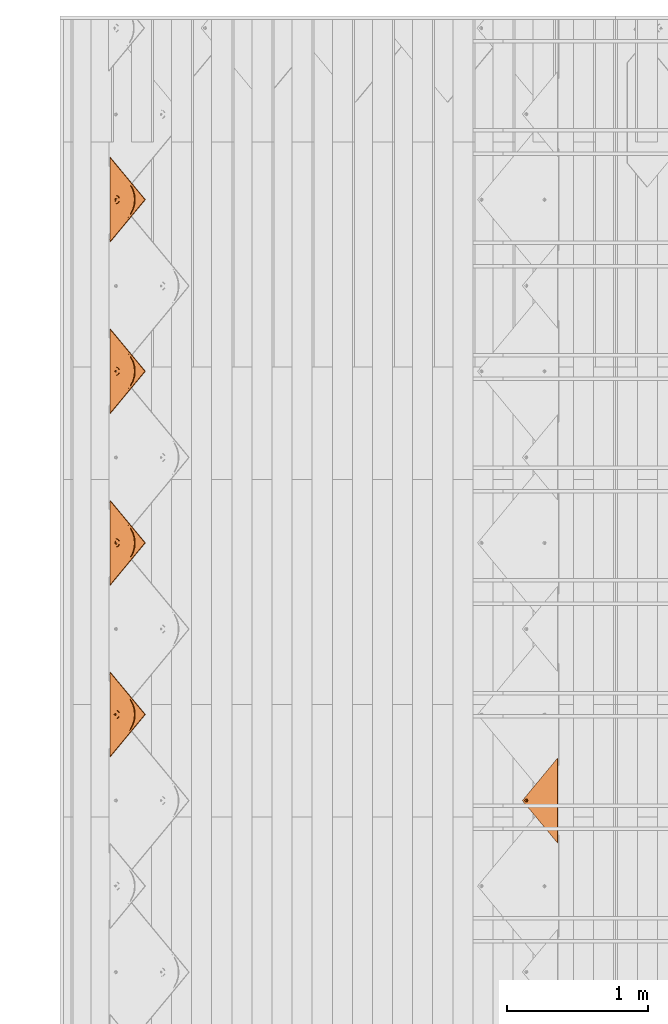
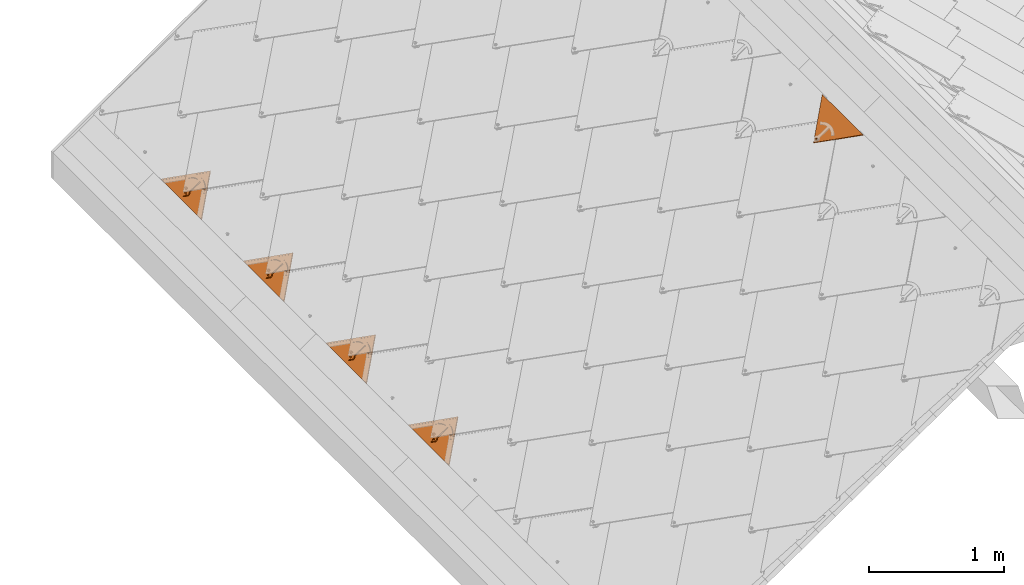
# One storey, part 101 of 133: 5 proxies.
"""IFC2X3 building model written with IfcOpenShell, lengths in millimetres."""

from ifc_helpers import new_model, entity, si_unit, converted_unit, derived_unit, direction, frame, origin, place, context, subcontext, project, spatial, faceted_brep, source, transform, mapped, material, material_list, type_object, type_shapes, element, save


model = new_model("IFC2X3")

# Units and contexts
model_context = context("Model", 3, precision=0.01, world=origin(), true_north=direction((6.12303176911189e-17, 1.0)))
body_context = subcontext(model_context, "Body", "Model", "MODEL_VIEW")
ifc_project = project(units=[si_unit("LENGTHUNIT", "METRE", prefix="MILLI"), si_unit("AREAUNIT", "SQUARE_METRE"), si_unit("VOLUMEUNIT", "CUBIC_METRE"), converted_unit("PLANEANGLEUNIT", "DEGREE", entity("IfcRatioMeasure", 0.0174532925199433), si_unit("PLANEANGLEUNIT", "RADIAN"), dimensions=[0, 0, 0, 0, 0, 0, 0]), si_unit("MASSUNIT", "GRAM", prefix="KILO"), derived_unit("MASSDENSITYUNIT", [(si_unit("MASSUNIT", "GRAM", prefix="KILO"), 1), (si_unit("LENGTHUNIT", "METRE"), -3)]), si_unit("TIMEUNIT", "SECOND"), si_unit("FREQUENCYUNIT", "HERTZ"), si_unit("THERMODYNAMICTEMPERATUREUNIT", "DEGREE_CELSIUS"), derived_unit("THERMALTRANSMITTANCEUNIT", [(si_unit("MASSUNIT", "GRAM", prefix="KILO"), 1), (si_unit("THERMODYNAMICTEMPERATUREUNIT", "KELVIN"), -1), (si_unit("TIMEUNIT", "SECOND"), -3)]), derived_unit("VOLUMETRICFLOWRATEUNIT", [(si_unit("LENGTHUNIT", "METRE"), 3), (si_unit("TIMEUNIT", "SECOND"), -1)]), si_unit("ELECTRICCURRENTUNIT", "AMPERE"), si_unit("ELECTRICVOLTAGEUNIT", "VOLT"), si_unit("POWERUNIT", "WATT"), si_unit("FORCEUNIT", "NEWTON", prefix="KILO"), si_unit("ILLUMINANCEUNIT", "LUX"), si_unit("LUMINOUSFLUXUNIT", "LUMEN"), si_unit("LUMINOUSINTENSITYUNIT", "CANDELA"), derived_unit("USERDEFINED", [(si_unit("MASSUNIT", "GRAM", prefix="KILO"), -1), (si_unit("LENGTHUNIT", "METRE"), -2), (si_unit("TIMEUNIT", "SECOND"), 3), (si_unit("LUMINOUSFLUXUNIT", "LUMEN"), 1)]), derived_unit("LINEARVELOCITYUNIT", [(si_unit("LENGTHUNIT", "METRE"), 1), (si_unit("TIMEUNIT", "SECOND"), -1)]), si_unit("PRESSUREUNIT", "PASCAL"), derived_unit("USERDEFINED", [(si_unit("LENGTHUNIT", "METRE"), -2), (si_unit("MASSUNIT", "GRAM", prefix="KILO"), 1), (si_unit("TIMEUNIT", "SECOND"), -2)])], contexts=[model_context])

# Site, building, storey
site_placement = place(None, origin())
site = spatial("IfcSite", under=ifc_project, at=site_placement, Name="Default", CompositionType="ELEMENT")
building_placement = place(site_placement, origin())
building = spatial("IfcBuilding", under=site, at=building_placement, CompositionType="ELEMENT")
storey_placement = place(building_placement, origin())
storey = spatial("IfcBuildingStorey", under=building, at=storey_placement, Name="Level 1", CompositionType="ELEMENT", Elevation=0.0)

# Proxies
ifc_material_1 = material(Name="Rubber - Sunstyle - Black")
ifc_material_2 = material(Name="Glass - Sunstyle - Tainted Black")
ifc_material_list_1 = material_list([ifc_material_1, ifc_material_2])
ifc_material_list_2 = material_list([ifc_material_1, ifc_material_2])
building_element_proxy_type_1 = type_object("IfcBuildingElementProxyType", Name="Shingle Top Small - Black", PredefinedType="NOTDEFINED", material=ifc_material_list_2)
shared_shape_1 = source(origin(), body_context, "Body", "Brep", [
    faceted_brep([(300.675008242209, 41.77298489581, 1.59527223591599), (294.900805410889, 38.4397147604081, 1.65109621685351), (294.900805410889, 38.8080238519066, 23.6429655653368), (300.675008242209, 42.1412939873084, 23.5871415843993), (294.900805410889, 31.7731744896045, 1.76274417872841), (294.900805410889, 32.1414835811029, 23.7546135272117), (300.675008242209, 28.4399043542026, 1.81856815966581), (300.675008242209, 28.808213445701, 23.8104375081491), (306.44921107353, 31.7731744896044, 1.7627441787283), (306.44921107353, 32.1414835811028, 23.7546135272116), (306.44921107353, 38.4397147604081, 1.65109621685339), (306.44921107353, 38.8080238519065, 23.6429655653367), (292.071304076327, 26.8722558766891, 23.8428599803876), (300.675008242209, 23.3089846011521, 23.9025359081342), (288.507533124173, 35.4747537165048, 23.6987895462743), (292.071304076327, 44.0772515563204, 23.5547191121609), (300.675008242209, 47.6405228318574, 23.4950431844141), (309.278712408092, 44.0772515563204, 23.5547191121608), (312.842483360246, 35.4747537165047, 23.6987895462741), (309.278712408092, 26.872255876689, 23.8428599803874), (289.350763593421, 37.7698308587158, 26.0116314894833), (290.91853368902, 35.5457686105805, 27.9391141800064), (300.67500824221, 42.8588438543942, 28.5718145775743), (300.67500824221, 44.0993414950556, 27.9914679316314), (300.675008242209, 46.2568923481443, 26.98209285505), (300.675008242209, 23.8650286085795, 25.1775938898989), (300.675008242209, 24.8086052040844, 27.3412982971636), (300.675008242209, 28.2579809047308, 28.8163427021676), (300.675008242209, 47.1274867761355, 24.7880055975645), (294.35176254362, 31.9081966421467, 28.7552106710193), (294.35176254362, 39.2086281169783, 28.6329466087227), (311.999252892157, 33.2584106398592, 26.0871865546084), (310.523888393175, 34.4713621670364, 27.8602460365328), (306.998253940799, 39.2086281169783, 28.6329466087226), (306.998253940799, 31.9081966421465, 28.7552106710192), (294.35176254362, 32.0422251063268, 36.7580988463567), (300.67500824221, 28.3920093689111, 36.8192308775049), (300.67500824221, 35.6924408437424, 36.6969668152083), (294.35176254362, 39.342656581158, 36.6358347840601), (306.998253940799, 32.0422251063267, 36.7580988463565), (306.998253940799, 39.342656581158, 36.6358347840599), (300.67500824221, 42.9928723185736, 36.5747027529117), (300.675008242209, 35.1064446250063, 1.7069201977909)], [[[0, 1, 2, 3]], [[1, 4, 5, 2]], [[4, 6, 7, 5]], [[6, 8, 9, 7]], [[8, 10, 11, 9]], [[10, 0, 3, 11]], [[12, 7, 13]], [[7, 12, 5]], [[14, 5, 12]], [[5, 14, 2]], [[15, 2, 14]], [[3, 2, 15]], [[15, 16, 3]], [[16, 17, 3]], [[11, 3, 17]], [[11, 17, 18]], [[9, 11, 18]], [[18, 19, 9]], [[7, 9, 19]], [[19, 13, 7]], [[20, 14, 12]], [[21, 22, 23, 24]], [[24, 20, 21]], [[25, 20, 12]], [[26, 27, 21]], [[15, 14, 20]], [[12, 13, 25]], [[20, 28, 15]], [[28, 20, 24]], [[21, 27, 29]], [[21, 29, 30]], [[26, 21, 20]], [[20, 25, 26]], [[15, 28, 16]], [[21, 30, 22]], [[31, 18, 17]], [[28, 31, 17]], [[32, 27, 26]], [[26, 31, 32]], [[26, 25, 31]], [[25, 19, 31]], [[17, 16, 28]], [[31, 19, 18]], [[24, 31, 28]], [[33, 34, 32]], [[23, 22, 33]], [[24, 32, 31]], [[27, 32, 34]], [[32, 23, 33]], [[19, 25, 13]], [[32, 24, 23]], [[35, 36, 37]], [[37, 38, 35]], [[36, 39, 37]], [[40, 37, 39]], [[37, 40, 41]], [[37, 41, 38]], [[42, 6, 4]], [[4, 1, 42]], [[1, 0, 42]], [[42, 8, 6]], [[0, 10, 42]], [[8, 42, 10]], [[22, 30, 38, 41]], [[30, 29, 35, 38]], [[29, 27, 36, 35]], [[27, 34, 39, 36]], [[34, 33, 40, 39]], [[33, 22, 41, 40]]]),
    faceted_brep([(601.350661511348, 300.716609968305, 19.1616152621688), (307.603211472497, 39.4797476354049, 23.5366826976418), (308.402414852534, 37.5505705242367, 23.5689916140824), (306.331862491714, 41.1363695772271, 23.5089384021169), (308.675008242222, 35.4803084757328, 23.6036633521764), (304.675008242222, 42.4075403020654, 23.4876494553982), (302.745560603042, 43.206631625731, 23.4742666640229), (300.675008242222, 43.4791867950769, 23.4697020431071), (308.402414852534, 33.4100464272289, 23.6383350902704), (300.675330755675, 0.125588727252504, 24.1957669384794), (0.0, 300.716609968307, 19.1616152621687), (298.604455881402, 43.2066316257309, 23.4742666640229), (296.675008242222, 42.4075403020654, 23.4876494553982), (295.018153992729, 41.136369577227, 23.5089384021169), (293.746805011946, 39.4797476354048, 23.5366826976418), (292.947601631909, 37.5505705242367, 23.5689916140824), (292.675008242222, 35.4803084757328, 23.6036633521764), (292.947601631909, 33.4100464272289, 23.6383350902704), (293.746805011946, 31.4808693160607, 23.6706440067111), (307.603211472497, 31.4808693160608, 23.6706440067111), (306.331862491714, 29.8242473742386, 23.698388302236), (304.675008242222, 28.5530766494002, 23.7196772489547), (302.745560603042, 27.7539853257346, 23.73306004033), (300.675008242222, 27.4814301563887, 23.7376246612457), (298.604455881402, 27.7539853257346, 23.73306004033), (296.675008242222, 28.5530766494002, 23.7196772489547), (295.018153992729, 29.8242473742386, 23.698388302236), (0.0, 300.591021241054, 11.6626668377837), (295.018153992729, 41.0107808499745, 16.0099899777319), (293.746805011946, 39.3541589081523, 16.0377342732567), (296.675008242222, 42.2819515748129, 15.9887010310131), (292.947601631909, 37.4249817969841, 16.0700431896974), (298.604455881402, 43.0810428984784, 15.9753182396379), (300.675008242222, 43.3535980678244, 15.9707536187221), (601.350661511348, 300.591021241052, 11.6626668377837), (292.675008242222, 35.3547197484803, 16.1047149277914), (292.947601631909, 33.2844576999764, 16.1393866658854), (300.675330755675, 0.0, 16.6968185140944), (302.745560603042, 43.0810428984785, 15.9753182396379), (304.675008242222, 42.2819515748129, 15.9887010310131), (306.331862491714, 41.0107808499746, 16.0099899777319), (307.603211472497, 39.3541589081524, 16.0377342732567), (308.402414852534, 37.4249817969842, 16.0700431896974), (308.675008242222, 35.3547197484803, 16.1047149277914), (308.402414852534, 33.2844576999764, 16.1393866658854), (307.603211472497, 31.3552805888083, 16.171695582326), (293.746805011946, 31.3552805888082, 16.171695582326), (295.018153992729, 29.6986586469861, 16.1994398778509), (296.675008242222, 28.4274879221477, 16.2207288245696), (298.604455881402, 27.6283965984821, 16.2341116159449), (300.675008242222, 27.3558414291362, 16.2386762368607), (302.745560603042, 27.6283965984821, 16.2341116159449), (304.675008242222, 28.4274879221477, 16.2207288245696), (306.331862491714, 29.6986586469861, 16.1994398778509)], [[[0, 1, 2]], [[1, 0, 3]], [[0, 2, 4]], [[5, 3, 0]], [[6, 5, 0]], [[0, 7, 6]], [[4, 8, 0]], [[8, 9, 0]], [[7, 0, 10]], [[11, 7, 10]], [[12, 11, 10]], [[10, 13, 12]], [[13, 10, 14]], [[15, 14, 10]], [[10, 16, 15]], [[17, 16, 10]], [[10, 9, 17]], [[17, 9, 18]], [[8, 19, 9]], [[20, 9, 19]], [[20, 21, 9]], [[22, 9, 21]], [[23, 9, 22]], [[23, 24, 9]], [[24, 25, 9]], [[25, 26, 9]], [[9, 26, 18]], [[27, 28, 29]], [[28, 27, 30]], [[27, 29, 31]], [[32, 30, 27]], [[33, 32, 27]], [[27, 34, 33]], [[31, 35, 27]], [[35, 36, 27]], [[27, 36, 37]], [[38, 33, 34]], [[39, 38, 34]], [[40, 39, 34]], [[34, 41, 40]], [[41, 34, 42]], [[43, 42, 34]], [[34, 44, 43]], [[37, 44, 34]], [[45, 44, 37]], [[37, 36, 46]], [[37, 46, 47]], [[47, 48, 37]], [[48, 49, 37]], [[50, 37, 49]], [[50, 51, 37]], [[37, 51, 52]], [[52, 53, 37]], [[45, 37, 53]], [[9, 10, 27, 37]], [[0, 9, 37, 34]], [[16, 35, 31, 15]], [[15, 31, 29, 14]], [[12, 13, 28, 30]], [[28, 13, 14, 29]], [[11, 12, 30, 32]], [[11, 32, 33, 7]], [[7, 33, 38, 6]], [[6, 38, 39, 5]], [[1, 3, 40, 41]], [[40, 3, 5, 39]], [[2, 1, 41, 42]], [[2, 42, 43, 4]], [[4, 43, 44, 8]], [[8, 44, 45, 19]], [[21, 20, 53, 52]], [[53, 20, 19, 45]], [[22, 21, 52, 51]], [[22, 51, 50, 23]], [[23, 50, 49, 24]], [[24, 49, 48, 25]], [[18, 26, 47, 46]], [[47, 26, 25, 48]], [[17, 18, 46, 36]], [[17, 36, 35, 16]], [[10, 0, 34, 27]]]),
])
type_shapes(building_element_proxy_type_1, [shared_shape_1])
proxy_1_placement = place(storey_placement, frame((558.087990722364, -1325.87413111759, 2379.24450072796), z_axis=(-0.57357643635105, 0.0, 0.819152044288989), x_axis=(0.0, -1.0, 0.0)))
element("IfcBuildingElementProxy", 1, at=proxy_1_placement, inside=storey, type_object=building_element_proxy_type_1, material=ifc_material_list_1, Name="Roofing_Panels_SunStyle_Tile_Shingle-Top-Small:Shingle Top Small - Black", ObjectType="Roofing_Panels_SunStyle_Tile_Shingle-Top-Small:Shingle Top Small - Black", context=body_context, shape_type="MappedRepresentation", body=[
    mapped(shared_shape_1, transform((0.0, 0.0, 0.0), scale=1.0)),
])
ifc_material_list_3 = material_list([ifc_material_1, ifc_material_2])
ifc_material_list_4 = material_list([ifc_material_1, ifc_material_2])
building_element_proxy_type_2 = type_object("IfcBuildingElementProxyType", Name="Shingle Bottom Small - Black", PredefinedType="NOTDEFINED", material=ifc_material_list_4)
shared_shape_2 = source(origin(), body_context, "Body", "Brep", [
    faceted_brep([(302.08842791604, 44.9093317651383, 22.0558382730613), (302.08842791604, 49.408700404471, 21.980485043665), (293.484723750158, 48.4726030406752, 21.9961623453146), (310.692132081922, 48.4726030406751, 21.9961623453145), (308.728656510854, 53.2419006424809, 21.9162884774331), (314.255903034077, 57.0751008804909, 21.8520919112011), (308.728656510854, 60.9083011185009, 21.7878953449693), (310.692132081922, 65.6775987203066, 21.7080214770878), (302.08842791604, 64.7415013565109, 21.7236987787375), (302.08842791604, 69.2408699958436, 21.6483455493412), (293.484723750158, 65.6775987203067, 21.708021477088), (295.448199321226, 60.908301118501, 21.7878953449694), (289.920952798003, 57.0751008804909, 21.8520919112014), (295.448199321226, 53.2419006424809, 21.9162884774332), (295.448199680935, 60.6403782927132, 5.79013870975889), (302.08842791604, 64.473578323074, 5.72594214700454), (295.448199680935, 52.9739782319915, 5.91853183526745), (302.08842791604, 49.1407782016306, 5.98272839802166), (308.728656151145, 52.9739782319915, 5.91853183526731), (308.728656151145, 60.6403782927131, 5.79013870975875), (293.484723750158, 48.2046804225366, 5.99840570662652), (302.08842791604, 44.6414091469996, 6.05808163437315), (289.920952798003, 56.8071782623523, 5.85433527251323), (293.484723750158, 65.4096761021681, 5.71026483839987), (302.08842791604, 68.972947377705, 5.65058891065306), (310.692132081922, 65.409676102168, 5.71026483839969), (314.255903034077, 56.8071782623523, 5.85433527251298), (310.692132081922, 48.2046804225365, 5.99840570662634)], [[[0, 1, 2]], [[1, 0, 3]], [[3, 4, 1]], [[4, 3, 5]], [[6, 4, 5]], [[5, 7, 6]], [[7, 8, 6]], [[8, 7, 9]], [[8, 9, 10]], [[10, 11, 8]], [[12, 11, 10]], [[2, 13, 12]], [[12, 13, 11]], [[13, 2, 1]], [[8, 11, 14, 15]], [[11, 13, 16, 14]], [[13, 1, 17, 16]], [[1, 4, 18, 17]], [[4, 6, 19, 18]], [[6, 8, 15, 19]], [[20, 17, 21]], [[17, 20, 16]], [[22, 16, 20]], [[14, 16, 22]], [[23, 14, 22]], [[15, 14, 23]], [[23, 24, 15]], [[24, 25, 15]], [[19, 15, 25]], [[19, 25, 26]], [[26, 18, 19]], [[26, 27, 18]], [[17, 18, 27]], [[27, 21, 17]], [[24, 23, 10, 9]], [[10, 23, 22, 12]], [[20, 21, 0, 2]], [[20, 2, 12, 22]], [[21, 27, 3, 0]], [[3, 27, 26, 5]], [[25, 24, 9, 7]], [[25, 7, 5, 26]]]),
    faceted_brep([(587.35835892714, 0.0, 12.5593198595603), (595.843045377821, 8.4846864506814, 12.4172224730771), (595.843045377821, 8.50980419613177, 13.9170121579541), (587.35835892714, 0.0251177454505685, 14.0591095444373), (302.088750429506, 285.189618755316, 7.7831033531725), (16.8191419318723, 0.0, 12.5593198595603), (8.33445548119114, 8.48468645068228, 12.4172224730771), (302.088750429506, 302.156612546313, 7.49894842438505), (302.088750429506, 302.181730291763, 8.9987381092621), (8.33445548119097, 8.50980419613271, 13.9170121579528), (16.8191419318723, 0.0251177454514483, 14.0591095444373), (302.088750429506, 285.214736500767, 9.28289303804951)], [[[0, 1, 2, 3]], [[1, 0, 4, 5, 6, 7]], [[2, 1, 7, 8]], [[3, 2, 8, 9, 10, 11]], [[0, 3, 11, 4]], [[5, 10, 9, 6]], [[8, 7, 6, 9]], [[4, 11, 10, 5]]]),
    faceted_brep([(302.088750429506, 302.156612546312, 7.49894842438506), (305.194256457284, 68.3255429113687, 11.4150370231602), (308.088427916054, 67.1269059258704, 11.4351112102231), (302.088427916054, 68.7343756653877, 11.4081900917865), (310.573709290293, 65.2201498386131, 11.4670446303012), (298.982599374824, 68.3255429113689, 11.4150370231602), (296.088427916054, 67.1269059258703, 11.4351112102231), (293.603146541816, 65.2201498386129, 11.4670446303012), (312.480732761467, 62.7352169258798, 11.5086610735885), (604.177500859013, 0.152567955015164, 12.5567647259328), (291.696123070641, 62.7352169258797, 11.5086610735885), (0.0, 0.152567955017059, 12.5567647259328), (290.497318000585, 59.8414512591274, 11.5571244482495), (290.088427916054, 56.7360581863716, 11.6091320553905), (290.497318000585, 53.6306651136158, 11.6611396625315), (291.696123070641, 50.7368994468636, 11.7096030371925), (293.603146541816, 48.2519665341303, 11.7512194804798), (296.088427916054, 46.3452104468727, 11.7831529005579), (298.982599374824, 45.1465734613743, 11.8032270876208), (302.088427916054, 44.7377407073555, 11.8100740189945), (313.679537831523, 59.8414512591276, 11.5571244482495), (314.088427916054, 56.7360581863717, 11.6091320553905), (313.679537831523, 53.6306651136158, 11.6611396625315), (312.480732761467, 50.7368994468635, 11.7096030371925), (310.573709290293, 48.2519665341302, 11.7512194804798), (308.088427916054, 46.3452104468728, 11.7831529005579), (305.194256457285, 45.1465734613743, 11.8032270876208), (0.0, 0.0269792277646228, 5.0578163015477), (290.088427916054, 56.6104694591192, 4.11018363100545), (290.497318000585, 53.5050763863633, 4.16219123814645), (290.497318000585, 59.7158625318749, 4.05817602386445), (291.696123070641, 50.6113107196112, 4.21065461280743), (291.696123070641, 62.6096281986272, 4.00971264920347), (302.088750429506, 302.031023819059, 0.0), (293.603146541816, 48.1263778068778, 4.25227105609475), (296.088427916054, 46.2196217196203, 4.28420447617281), (298.982599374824, 45.0209847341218, 4.30427866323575), (302.088427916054, 44.612151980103, 4.31112559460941), (604.177500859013, 0.0269792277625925, 5.05781630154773), (293.603146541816, 65.0945611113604, 3.96809620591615), (296.088427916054, 67.0013171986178, 3.93616278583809), (298.982599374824, 68.1999541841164, 3.91608859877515), (302.088427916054, 68.6087869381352, 3.90924166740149), (305.194256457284, 68.1999541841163, 3.91608859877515), (308.088427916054, 67.0013171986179, 3.93616278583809), (310.573709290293, 65.0945611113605, 3.96809620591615), (312.480732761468, 62.6096281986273, 4.00971264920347), (305.194256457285, 45.0209847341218, 4.30427866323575), (308.088427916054, 46.2196217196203, 4.28420447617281), (313.679537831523, 59.7158625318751, 4.05817602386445), (314.088427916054, 56.6104694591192, 4.11018363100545), (313.679537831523, 53.5050763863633, 4.16219123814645), (312.480732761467, 50.611310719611, 4.21065461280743), (310.573709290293, 48.1263778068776, 4.25227105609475)], [[[0, 1, 2]], [[1, 0, 3]], [[0, 2, 4]], [[5, 3, 0]], [[6, 5, 0]], [[0, 7, 6]], [[8, 0, 4]], [[0, 8, 9]], [[7, 0, 10]], [[0, 11, 10]], [[12, 10, 11]], [[11, 13, 12]], [[13, 11, 14]], [[15, 14, 11]], [[11, 16, 15]], [[17, 16, 11]], [[17, 11, 18]], [[19, 18, 11]], [[19, 11, 9]], [[9, 8, 20]], [[20, 21, 9]], [[21, 22, 9]], [[22, 23, 9]], [[9, 23, 24]], [[24, 25, 9]], [[25, 26, 9]], [[9, 26, 19]], [[27, 28, 29]], [[28, 27, 30]], [[27, 29, 31]], [[32, 30, 27]], [[32, 27, 33]], [[31, 34, 27]], [[34, 35, 27]], [[35, 36, 27]], [[36, 37, 27]], [[27, 37, 38]], [[33, 39, 32]], [[40, 39, 33]], [[41, 40, 33]], [[42, 41, 33]], [[33, 43, 42]], [[43, 33, 44]], [[45, 44, 33]], [[33, 46, 45]], [[46, 33, 38]], [[38, 37, 47]], [[47, 48, 38]], [[49, 46, 38]], [[38, 50, 49]], [[50, 38, 51]], [[52, 51, 38]], [[53, 52, 38]], [[53, 38, 48]], [[11, 0, 33, 27]], [[0, 9, 38, 33]], [[13, 28, 30, 12]], [[12, 30, 32, 10]], [[6, 7, 39, 40]], [[39, 7, 10, 32]], [[5, 6, 40, 41]], [[5, 41, 42, 3]], [[3, 42, 43, 1]], [[1, 43, 44, 2]], [[8, 4, 45, 46]], [[45, 4, 2, 44]], [[20, 8, 46, 49]], [[20, 49, 50, 21]], [[21, 50, 51, 22]], [[22, 51, 52, 23]], [[25, 24, 53, 48]], [[53, 24, 23, 52]], [[26, 25, 48, 47]], [[26, 47, 37, 19]], [[19, 37, 36, 18]], [[18, 36, 35, 17]], [[15, 16, 34, 31]], [[34, 16, 17, 35]], [[14, 15, 31, 29]], [[14, 29, 28, 13]], [[9, 11, 27, 38]]]),
    faceted_brep([(190.819384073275, 138.646056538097, 12.7376939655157), (217.144031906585, 164.967013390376, 12.2968834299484), (200.060856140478, 182.04779392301, 12.0108228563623), (193.80845410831, 176.686146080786, 12.100617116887), (187.837458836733, 171.012871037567, 12.1956303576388), (173.141714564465, 156.321247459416, 12.4416784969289), (431.035141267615, 156.321247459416, 12.4416784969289), (416.339396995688, 171.012871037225, 12.1956303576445), (410.36840172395, 176.686146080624, 12.1006171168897), (404.115999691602, 182.047793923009, 12.0108228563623), (387.031626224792, 164.968210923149, 12.2968633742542), (413.357471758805, 138.646056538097, 12.7376939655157), (296.088427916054, 67.294357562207, 21.4337091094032), (288.788427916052, 83.1076295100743, 21.1688761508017), (283.384321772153, 79.569581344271, 21.2281296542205), (293.603146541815, 65.3876014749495, 21.4656425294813), (298.982599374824, 68.4929945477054, 21.4136349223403), (302.088427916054, 68.9018273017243, 21.4067879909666), (315.388427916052, 83.107629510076, 21.1688761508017), (305.194256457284, 68.4929945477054, 21.4136349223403), (308.088427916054, 67.2943575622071, 21.4337091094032), (320.792534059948, 79.5695813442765, 21.2281296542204), (310.573709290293, 65.3876014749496, 21.4656425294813), (325.293078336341, 74.9365758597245, 21.3057209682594), (312.480732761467, 62.9026685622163, 21.5072589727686), (328.672647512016, 69.4324252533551, 21.3979017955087), (313.679537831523, 60.0089028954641, 21.5557223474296), (330.767980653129, 63.323025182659, 21.500219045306), (314.088427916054, 56.9035098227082, 21.6077299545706), (331.477855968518, 56.9035098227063, 21.6077299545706), (313.679537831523, 53.7981167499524, 21.6597375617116), (312.480732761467, 50.9043510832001, 21.7082009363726), (310.573709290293, 48.4194181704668, 21.7498173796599), (302.08842791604, 27.5182024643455, 22.0998607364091), (308.088427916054, 46.5126620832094, 21.7817507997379), (305.194256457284, 45.314025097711, 21.8018249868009), (302.088427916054, 44.9051923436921, 21.8086719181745), (298.982599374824, 45.314025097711, 21.8018249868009), (296.088427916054, 46.5126620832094, 21.7817507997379), (293.603146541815, 48.4194181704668, 21.7498173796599), (272.69899986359, 56.903509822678, 21.6077299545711), (291.696123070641, 50.9043510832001, 21.7082009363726), (290.497318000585, 53.7981167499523, 21.6597375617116), (290.088427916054, 56.9035098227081, 21.6077299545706), (273.408875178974, 63.3230251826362, 21.5002190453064), (290.497318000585, 60.008902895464, 21.5557223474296), (275.504208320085, 69.4324252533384, 21.397901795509), (291.696123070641, 62.9026685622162, 21.5072589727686), (278.883777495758, 74.9365758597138, 21.3057209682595), (288.788427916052, 192.984512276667, 19.3287117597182), (315.388427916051, 192.984512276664, 19.3287117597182), (302.088427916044, 218.456125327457, 18.9021256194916), (338.579268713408, 214.282159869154, 18.9720291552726), (340.858170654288, 188.169632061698, 19.4093490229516), (373.184513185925, 201.975945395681, 19.1781276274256), (365.012761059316, 178.765998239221, 19.5668364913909), (404.115999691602, 182.173382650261, 19.5097712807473), (387.032823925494, 165.092602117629, 19.7958318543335), (265.59758711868, 214.28215986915, 18.9720291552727), (263.318685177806, 188.169632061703, 19.4093490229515), (230.992342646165, 201.975945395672, 19.1781276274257), (239.164094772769, 178.765998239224, 19.5668364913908), (200.06085614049, 182.173382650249, 19.5097712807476), (217.144031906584, 165.092602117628, 19.7958318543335), (302.08842791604, 27.3507508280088, 12.1012628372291), (302.088427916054, 44.7377407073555, 11.8100740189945), (305.194256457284, 45.1465734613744, 11.8032270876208), (298.982599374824, 45.1465734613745, 11.8032270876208), (308.088427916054, 46.3452104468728, 11.7831529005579), (310.573709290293, 48.2519665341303, 11.7512194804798), (331.477855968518, 56.7360581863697, 11.6091320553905), (296.088427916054, 46.3452104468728, 11.7831529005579), (293.603146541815, 48.2519665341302, 11.7512194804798), (272.69899986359, 56.7360581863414, 11.609132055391), (291.696123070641, 50.7368994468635, 11.7096030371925), (290.497318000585, 53.6306651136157, 11.6611396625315), (290.088427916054, 56.7360581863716, 11.6091320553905), (273.408875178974, 63.1555735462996, 11.5016211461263), (290.497318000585, 59.8414512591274, 11.5571244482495), (275.504208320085, 69.2649736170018, 11.3993038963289), (291.696123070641, 62.7352169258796, 11.5086610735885), (278.883777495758, 74.7691242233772, 11.3071230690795), (293.603146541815, 65.2201498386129, 11.4670446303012), (283.384321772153, 79.4021297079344, 11.2295317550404), (296.088427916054, 67.1269059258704, 11.4351112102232), (288.788427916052, 82.9401778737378, 11.1702782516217), (298.982599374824, 68.3255429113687, 11.4150370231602), (302.088427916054, 68.7343756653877, 11.4081900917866), (315.388427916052, 82.9401778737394, 11.1702782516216), (288.788427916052, 192.81706064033, 9.33011386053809), (315.388427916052, 192.817060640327, 9.33011386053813), (302.088427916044, 218.28867369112, 8.90352772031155), (265.59758711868, 214.114708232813, 8.97343125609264), (263.318685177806, 188.002180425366, 9.41075112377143), (230.992342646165, 201.808493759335, 9.17952972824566), (239.164094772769, 178.598546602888, 9.56823859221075), (200.06085614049, 182.005931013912, 9.51117338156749), (217.145229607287, 164.926348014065, 9.79721389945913), (193.80845410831, 176.644283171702, 9.60096764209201), (187.837458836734, 170.971008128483, 9.69598088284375), (190.819384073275, 138.604193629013, 10.2380444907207), (173.141714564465, 156.279384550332, 9.94202902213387), (338.579268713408, 214.114708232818, 8.97343125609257), (340.858170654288, 188.002180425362, 9.41075112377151), (373.184513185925, 201.808493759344, 9.17952972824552), (365.012761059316, 178.598546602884, 9.5682385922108), (404.115999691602, 182.005931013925, 9.51117338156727), (387.032823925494, 164.925150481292, 9.79723395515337), (410.36840172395, 176.64428317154, 9.60096764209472), (416.339396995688, 170.971008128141, 9.69598088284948), (413.357471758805, 138.604193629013, 10.2380444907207), (431.035141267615, 156.279384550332, 9.94202902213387), (305.194256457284, 68.3255429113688, 11.4150370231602), (308.088427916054, 67.1269059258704, 11.4351112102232), (320.792534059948, 79.4021297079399, 11.2295317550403), (310.573709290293, 65.220149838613, 11.4670446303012), (325.293078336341, 74.7691242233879, 11.3071230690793), (312.480732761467, 62.7352169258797, 11.5086610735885), (328.672647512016, 69.2649736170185, 11.3993038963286), (313.679537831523, 59.8414512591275, 11.5571244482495), (330.767980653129, 63.1555735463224, 11.5016211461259), (314.088427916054, 56.7360581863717, 11.6091320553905), (312.480732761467, 50.7368994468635, 11.7096030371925), (313.679537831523, 53.6306651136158, 11.6611396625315)], [[[0, 1, 2, 3, 4, 5]], [[6, 7, 8, 9, 10, 11]], [[12, 13, 14]], [[12, 14, 15]], [[16, 13, 12]], [[17, 13, 16]], [[18, 13, 17]], [[17, 19, 18]], [[19, 20, 18]], [[20, 21, 18]], [[21, 20, 22]], [[21, 22, 23]], [[24, 23, 22]], [[23, 24, 25]], [[24, 26, 25]], [[27, 25, 26]], [[26, 28, 27]], [[29, 27, 28]], [[28, 30, 29]], [[30, 31, 29]], [[29, 31, 32]], [[32, 33, 29]], [[32, 34, 33]], [[35, 33, 34]], [[36, 33, 35]], [[33, 36, 37]], [[38, 33, 37]], [[38, 39, 33]], [[40, 33, 39]], [[41, 40, 39]], [[41, 42, 40]], [[42, 43, 40]], [[43, 44, 40]], [[45, 44, 43]], [[45, 46, 44]], [[45, 47, 46]], [[48, 46, 47]], [[48, 47, 15]], [[48, 15, 14]], [[18, 49, 13]], [[50, 49, 18]], [[51, 49, 50]], [[50, 52, 51]], [[50, 53, 52]], [[52, 53, 54]], [[53, 55, 54]], [[56, 54, 55]], [[57, 56, 55]], [[58, 49, 51]], [[49, 58, 59]], [[60, 59, 58]], [[60, 61, 59]], [[61, 60, 62]], [[62, 63, 61]], [[64, 65, 66]], [[65, 64, 67]], [[64, 66, 68]], [[68, 69, 64]], [[64, 69, 70]], [[71, 67, 64]], [[71, 64, 72]], [[72, 64, 73]], [[73, 74, 72]], [[74, 73, 75]], [[75, 73, 76]], [[77, 76, 73]], [[76, 77, 78]], [[78, 77, 79]], [[80, 78, 79]], [[81, 80, 79]], [[82, 80, 81]], [[83, 82, 81]], [[83, 84, 82]], [[85, 84, 83]], [[85, 86, 84]], [[87, 86, 85]], [[88, 87, 85]], [[89, 88, 85]], [[88, 89, 90]], [[89, 91, 90]], [[91, 89, 92]], [[93, 92, 89]], [[92, 93, 94]], [[95, 94, 93]], [[96, 94, 95]], [[95, 97, 96]], [[97, 98, 96]], [[98, 97, 99]], [[97, 100, 99]], [[99, 100, 101]], [[90, 91, 102]], [[103, 90, 102]], [[103, 102, 104]], [[105, 103, 104]], [[106, 105, 104]], [[107, 105, 106]], [[106, 108, 107]], [[109, 107, 108]], [[110, 107, 109]], [[109, 111, 110]], [[112, 87, 88]], [[113, 112, 88]], [[114, 113, 88]], [[115, 113, 114]], [[115, 114, 116]], [[116, 117, 115]], [[117, 116, 118]], [[118, 119, 117]], [[120, 119, 118]], [[121, 120, 70]], [[120, 121, 119]], [[70, 69, 122]], [[122, 123, 70]], [[123, 121, 70]], [[13, 49, 89, 85]], [[14, 13, 85, 83]], [[48, 14, 83, 81]], [[81, 79, 46, 48]], [[44, 46, 79, 77]], [[40, 44, 77, 73]], [[33, 40, 73, 64]], [[0, 5, 101, 100]], [[29, 33, 64, 70]], [[6, 11, 110, 111]], [[27, 29, 70, 120]], [[25, 27, 120, 118]], [[118, 116, 23, 25]], [[21, 23, 116, 114]], [[18, 21, 114, 88]], [[50, 18, 88, 90]], [[9, 106, 104, 54, 56]], [[52, 54, 104, 102]], [[51, 52, 102, 91]], [[58, 51, 91, 92]], [[94, 96, 2, 62, 60]], [[60, 58, 92, 94]], [[43, 76, 78, 45]], [[45, 78, 80, 47]], [[12, 15, 82, 84]], [[80, 82, 15, 47]], [[16, 12, 84, 86]], [[87, 17, 16, 86]], [[19, 112, 113, 20]], [[20, 113, 115, 22]], [[26, 24, 117, 119]], [[115, 117, 24, 22]], [[28, 26, 119, 121]], [[19, 17, 87, 112]], [[28, 121, 123, 30]], [[30, 123, 122, 31]], [[34, 32, 69, 68]], [[122, 69, 32, 31]], [[35, 34, 68, 66]], [[65, 36, 35, 66]], [[37, 67, 71, 38]], [[38, 71, 72, 39]], [[42, 41, 74, 75]], [[72, 74, 41, 39]], [[43, 42, 75, 76]], [[37, 36, 65, 67]], [[7, 6, 111, 109]], [[7, 109, 108, 8]], [[108, 106, 9, 8]], [[11, 10, 107, 110]], [[1, 0, 100, 97]], [[2, 96, 98, 3]], [[98, 99, 4, 3]], [[5, 4, 99, 101]], [[63, 62, 2, 1]], [[56, 57, 10]], [[10, 9, 56]], [[1, 95, 61, 63]], [[1, 97, 95]], [[93, 89, 49, 59]], [[95, 93, 59, 61]], [[90, 103, 53, 50]], [[103, 105, 55, 53]], [[10, 57, 55]], [[107, 10, 105]], [[55, 105, 10]]]),
])
type_shapes(building_element_proxy_type_2, [shared_shape_2])
proxy_2_placement = place(storey_placement, frame((-2381.4644336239, 2947.58009894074, 315.884675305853), z_axis=(-0.57357643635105, 0.0, 0.819152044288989), x_axis=(0.0, -1.0, 0.0)))
element("IfcBuildingElementProxy", 2, at=proxy_2_placement, inside=storey, type_object=building_element_proxy_type_2, material=ifc_material_list_3, Name="Roofing_Panels_SunStyle_Tile_Shingle-Bottom-Small:Shingle Bottom Small - Black", ObjectType="Roofing_Panels_SunStyle_Tile_Shingle-Bottom-Small:Shingle Bottom Small - Black", context=body_context, shape_type="MappedRepresentation", body=[
    mapped(shared_shape_2, transform((0.0, 0.0, 0.0), scale=1.0)),
])
ifc_material_list_5 = material_list([ifc_material_1, ifc_material_2])
proxy_3_placement = place(storey_placement, frame((-2381.46443362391, 1727.58009894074, 315.884675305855), z_axis=(-0.57357643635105, 0.0, 0.819152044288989), x_axis=(0.0, -1.0, 0.0)))
element("IfcBuildingElementProxy", 3, at=proxy_3_placement, inside=storey, type_object=building_element_proxy_type_2, material=ifc_material_list_5, Name="Roofing_Panels_SunStyle_Tile_Shingle-Bottom-Small:Shingle Bottom Small - Black", ObjectType="Roofing_Panels_SunStyle_Tile_Shingle-Bottom-Small:Shingle Bottom Small - Black", context=body_context, shape_type="MappedRepresentation", body=[
    mapped(shared_shape_2, transform((0.0, 0.0, 0.0), scale=1.0)),
])
ifc_material_list_6 = material_list([ifc_material_1, ifc_material_2])
proxy_4_placement = place(storey_placement, frame((-2381.4644336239, 507.580098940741, 315.884675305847), z_axis=(-0.57357643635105, 0.0, 0.819152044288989), x_axis=(0.0, -1.0, 0.0)))
element("IfcBuildingElementProxy", 4, at=proxy_4_placement, inside=storey, type_object=building_element_proxy_type_2, material=ifc_material_list_6, Name="Roofing_Panels_SunStyle_Tile_Shingle-Bottom-Small:Shingle Bottom Small - Black", ObjectType="Roofing_Panels_SunStyle_Tile_Shingle-Bottom-Small:Shingle Bottom Small - Black", context=body_context, shape_type="MappedRepresentation", body=[
    mapped(shared_shape_2, transform((0.0, 0.0, 0.0), scale=1.0)),
])
ifc_material_list_7 = material_list([ifc_material_1, ifc_material_2])
proxy_5_placement = place(storey_placement, frame((-2381.4644336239, -712.419901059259, 315.884675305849), z_axis=(-0.57357643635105, 0.0, 0.819152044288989), x_axis=(0.0, -1.0, 0.0)))
element("IfcBuildingElementProxy", 5, at=proxy_5_placement, inside=storey, type_object=building_element_proxy_type_2, material=ifc_material_list_7, Name="Roofing_Panels_SunStyle_Tile_Shingle-Bottom-Small:Shingle Bottom Small - Black", ObjectType="Roofing_Panels_SunStyle_Tile_Shingle-Bottom-Small:Shingle Bottom Small - Black", context=body_context, shape_type="MappedRepresentation", body=[
    mapped(shared_shape_2, transform((0.0, 0.0, 0.0), scale=1.0)),
])

save(model, "model.ifc")
